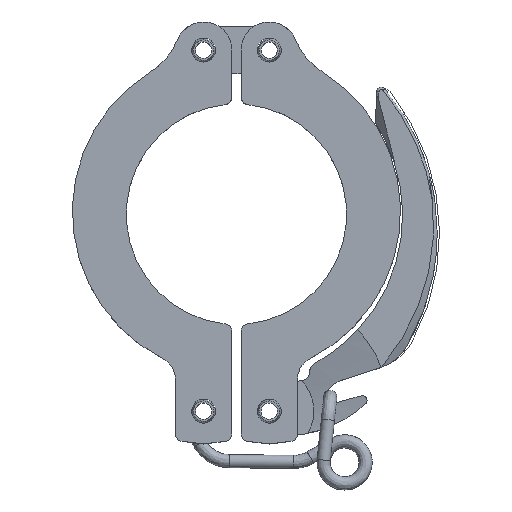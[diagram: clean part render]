
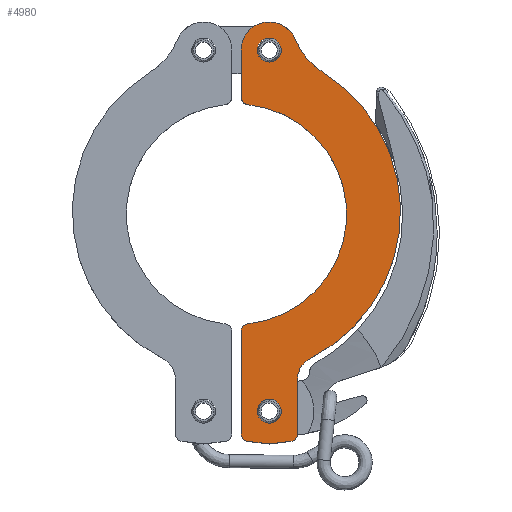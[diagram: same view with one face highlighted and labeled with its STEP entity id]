
A CAD part, top view. The second image highlights one B-rep face of the part: STEP entity #4980.
In plain terms, the highlighted planar face has unit normal (0, 0, 1).
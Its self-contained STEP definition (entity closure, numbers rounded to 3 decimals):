
#3986=CARTESIAN_POINT('',(15.75,-30.756,9.0));
#3987=VERTEX_POINT('',#3986);
#3994=CARTESIAN_POINT('',(13.,-35.221,9.0));
#3995=VERTEX_POINT('',#3994);
#3996=CARTESIAN_POINT('',(18.,-35.221,9.0));
#3997=DIRECTION('',(0.0,0.0,-1.0));
#3998=DIRECTION('',(1.0,0.0,0.0));
#3999=AXIS2_PLACEMENT_3D('',#3996,#3997,#3998);
#4000=CIRCLE('',#3999,5.0);
#4001=EDGE_CURVE('',#3987,#3995,#4000,.F.);
#4139=CARTESIAN_POINT('',(4.45,-42.0,9.0));
#4140=VERTEX_POINT('',#4139);
#4141=CARTESIAN_POINT('',(7.,-42.0,9.0));
#4142=DIRECTION('',(0.0,0.0,-1.0));
#4143=DIRECTION('',(1.0,0.0,0.0));
#4144=AXIS2_PLACEMENT_3D('',#4141,#4142,#4143);
#4145=CIRCLE('',#4144,2.55);
#4146=EDGE_CURVE('',#4140,#4140,#4145,.T.);
#4399=CARTESIAN_POINT('',(4.45,35.0,9.0));
#4400=VERTEX_POINT('',#4399);
#4401=CARTESIAN_POINT('',(7.,35.0,9.0));
#4402=DIRECTION('',(0.0,0.0,-1.0));
#4403=DIRECTION('',(1.0,0.0,0.0));
#4404=AXIS2_PLACEMENT_3D('',#4401,#4402,#4403);
#4405=CIRCLE('',#4404,2.55);
#4406=EDGE_CURVE('',#4400,#4400,#4405,.T.);
#4674=CARTESIAN_POINT('',(1.,24.965,9.0));
#4675=VERTEX_POINT('',#4674);
#4682=CARTESIAN_POINT('',(1.,35.0,9.0));
#4683=VERTEX_POINT('',#4682);
#4684=CARTESIAN_POINT('',(1.,35.0,9.0));
#4685=DIRECTION('',(0.0,-1.0,0.0));
#4686=VECTOR('',#4685,10.035);
#4687=LINE('',#4684,#4686);
#4688=EDGE_CURVE('',#4675,#4683,#4687,.F.);
#4705=CARTESIAN_POINT('',(1.,-24.965,9.0));
#4706=VERTEX_POINT('',#4705);
#4713=CARTESIAN_POINT('',(2.434,-23.374,9.0));
#4714=VERTEX_POINT('',#4713);
#4715=CARTESIAN_POINT('',(2.6,-24.965,9.0));
#4716=DIRECTION('',(0.0,0.0,1.0));
#4717=DIRECTION('',(-1.0,0.0,0.0));
#4718=AXIS2_PLACEMENT_3D('',#4715,#4716,#4717);
#4719=CIRCLE('',#4718,1.6);
#4720=EDGE_CURVE('',#4706,#4714,#4719,.F.);
#4770=CARTESIAN_POINT('',(2.434,23.374,9.0));
#4771=VERTEX_POINT('',#4770);
#4772=CARTESIAN_POINT('',(0.,0.,9.0));
#4773=DIRECTION('',(0.,0.,-1.));
#4774=DIRECTION('',(-0.104,-0.995,0.));
#4775=AXIS2_PLACEMENT_3D('',#4772,#4773,#4774);
#4776=CIRCLE('',#4775,23.5);
#4777=EDGE_CURVE('',#4714,#4771,#4776,.F.);
#4820=CARTESIAN_POINT('',(2.6,24.965,9.0));
#4821=DIRECTION('',(0.,0.,1.));
#4822=DIRECTION('',(-0.104,-0.995,0.));
#4823=AXIS2_PLACEMENT_3D('',#4820,#4821,#4822);
#4824=CIRCLE('',#4823,1.6);
#4825=EDGE_CURVE('',#4771,#4675,#4824,.F.);
#4889=CARTESIAN_POINT('',(15.489,-3.864,9.0));
#4890=DIRECTION('',(0.0,0.0,-1.0));
#4891=DIRECTION('',(-1.0,0.0,0.0));
#4892=AXIS2_PLACEMENT_3D('',#4889,#4890,#4891);
#4893=PLANE('',#4892);
#4894=CARTESIAN_POINT('',(12.555,37.267,9.0));
#4895=VERTEX_POINT('',#4894);
#4896=CARTESIAN_POINT('',(18.51,30.205,9.0));
#4897=VERTEX_POINT('',#4896);
#4898=CARTESIAN_POINT('',(26.443,42.935,9.0));
#4899=DIRECTION('',(0.,0.,-1.));
#4900=DIRECTION('',(0.529,0.849,0.));
#4901=AXIS2_PLACEMENT_3D('',#4898,#4899,#4900);
#4902=CIRCLE('',#4901,15.);
#4903=EDGE_CURVE('',#4895,#4897,#4902,.F.);
#4904=ORIENTED_EDGE('',*,*,#4903,.F.);
#4905=CARTESIAN_POINT('',(7.,35.0,9.0));
#4906=DIRECTION('',(0.0,0.0,1.0));
#4907=DIRECTION('',(-1.0,0.0,0.0));
#4908=AXIS2_PLACEMENT_3D('',#4905,#4906,#4907);
#4909=CIRCLE('',#4908,6.);
#4910=EDGE_CURVE('',#4683,#4895,#4909,.F.);
#4911=ORIENTED_EDGE('',*,*,#4910,.F.);
#4912=ORIENTED_EDGE('',*,*,#4688,.F.);
#4913=ORIENTED_EDGE('',*,*,#4825,.F.);
#4914=ORIENTED_EDGE('',*,*,#4777,.F.);
#4915=ORIENTED_EDGE('',*,*,#4720,.F.);
#4916=CARTESIAN_POINT('',(1.,-46.848,9.0));
#4917=VERTEX_POINT('',#4916);
#4918=CARTESIAN_POINT('',(1.,-24.965,9.0));
#4919=DIRECTION('',(0.0,-1.0,0.0));
#4920=VECTOR('',#4919,21.883);
#4921=LINE('',#4918,#4920);
#4922=EDGE_CURVE('',#4917,#4706,#4921,.F.);
#4923=ORIENTED_EDGE('',*,*,#4922,.F.);
#4924=CARTESIAN_POINT('',(2.405,-48.436,9.0));
#4925=VERTEX_POINT('',#4924);
#4926=CARTESIAN_POINT('',(2.6,-46.848,9.0));
#4927=DIRECTION('',(0.,0.,1.));
#4928=DIRECTION('',(-0.122,-0.993,0.));
#4929=AXIS2_PLACEMENT_3D('',#4926,#4927,#4928);
#4930=CIRCLE('',#4929,1.6);
#4931=EDGE_CURVE('',#4925,#4917,#4930,.F.);
#4932=ORIENTED_EDGE('',*,*,#4931,.F.);
#4933=CARTESIAN_POINT('',(7.,-49.0,9.0));
#4934=VERTEX_POINT('',#4933);
#4935=CARTESIAN_POINT('',(2.405,-48.436,9.0));
#4936=DIRECTION('',(0.993,-0.122,0.0));
#4937=VECTOR('',#4936,4.629);
#4938=LINE('',#4935,#4937);
#4939=EDGE_CURVE('',#4934,#4925,#4938,.F.);
#4940=ORIENTED_EDGE('',*,*,#4939,.F.);
#4941=CARTESIAN_POINT('',(11.595,-48.436,9.0));
#4942=VERTEX_POINT('',#4941);
#4943=CARTESIAN_POINT('',(7.,-49.0,9.0));
#4944=DIRECTION('',(0.993,0.122,0.0));
#4945=VECTOR('',#4944,4.629);
#4946=LINE('',#4943,#4945);
#4947=EDGE_CURVE('',#4942,#4934,#4946,.F.);
#4948=ORIENTED_EDGE('',*,*,#4947,.F.);
#4949=CARTESIAN_POINT('',(13.,-46.848,9.0));
#4950=VERTEX_POINT('',#4949);
#4951=CARTESIAN_POINT('',(11.4,-46.848,9.0));
#4952=DIRECTION('',(0.0,0.0,1.0));
#4953=DIRECTION('',(1.0,0.0,0.0));
#4954=AXIS2_PLACEMENT_3D('',#4951,#4952,#4953);
#4955=CIRCLE('',#4954,1.6);
#4956=EDGE_CURVE('',#4950,#4942,#4955,.F.);
#4957=ORIENTED_EDGE('',*,*,#4956,.F.);
#4958=CARTESIAN_POINT('',(13.,-46.848,9.0));
#4959=DIRECTION('',(0.0,1.0,0.0));
#4960=VECTOR('',#4959,11.627);
#4961=LINE('',#4958,#4960);
#4962=EDGE_CURVE('',#3995,#4950,#4961,.F.);
#4963=ORIENTED_EDGE('',*,*,#4962,.F.);
#4964=ORIENTED_EDGE('',*,*,#4001,.F.);
#4965=CARTESIAN_POINT('',(0.,0.5,9.0));
#4966=DIRECTION('',(0.,0.,1.0));
#4967=DIRECTION('',(0.529,0.849,0.));
#4968=AXIS2_PLACEMENT_3D('',#4965,#4966,#4967);
#4969=CIRCLE('',#4968,35.);
#4970=EDGE_CURVE('',#4897,#3987,#4969,.F.);
#4971=ORIENTED_EDGE('',*,*,#4970,.F.);
#4972=EDGE_LOOP('',(#4904,#4911,#4912,#4913,#4914,#4915,#4923,#4932,#4940,#4948,#4957,#4963,#4964,#4971));
#4973=FACE_OUTER_BOUND('',#4972,.T.);
#4974=ORIENTED_EDGE('',*,*,#4146,.T.);
#4975=EDGE_LOOP('',(#4974));
#4976=FACE_BOUND('',#4975,.T.);
#4977=ORIENTED_EDGE('',*,*,#4406,.T.);
#4978=EDGE_LOOP('',(#4977));
#4979=FACE_BOUND('',#4978,.T.);
#4980=ADVANCED_FACE('',(#4973,#4976,#4979),#4893,.F.);
